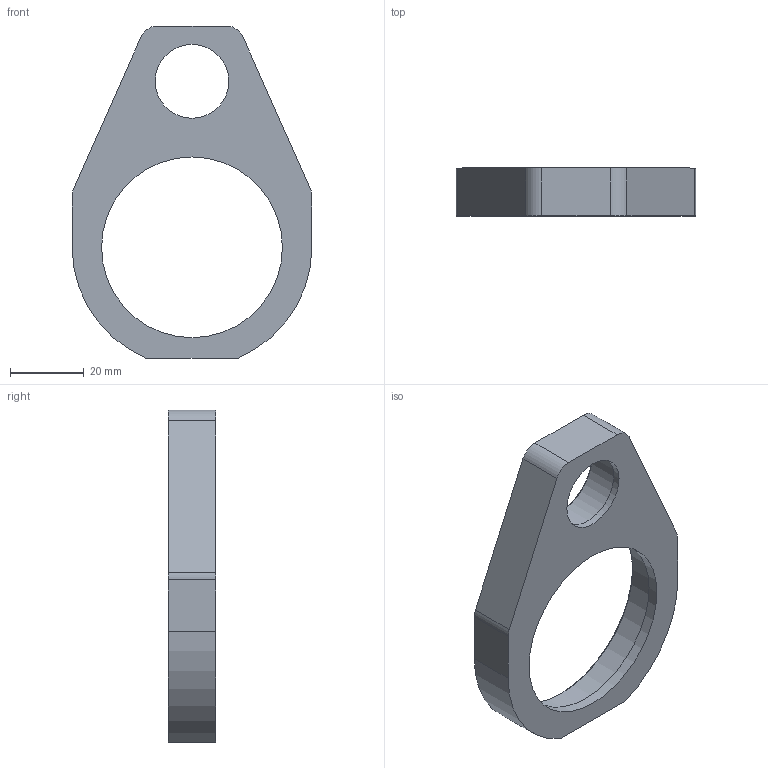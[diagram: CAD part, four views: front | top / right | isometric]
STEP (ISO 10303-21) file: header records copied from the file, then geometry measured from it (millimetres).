
FILE_DESCRIPTION(('STEP AP203'), '1');
FILE_NAME('ÒÏÏÔ1801.01.08.01.101 - Êîðïóñ òîëêàòåëÿ', '', ('UNSPECIFIED'), ('UNSPECIFIED'), 'C3D Converter', 'C3D Toolkit', '');
FILE_SCHEMA(('CONFIG_CONTROL_DESIGN'));
Length unit declared in the file: millimetre
Products named in the file (1): ТППФ1801.01.08.01.101
Bounding box: 65 x 13 x 90 mm (x, y, z)
Volume: 24621.5 mm3; surface area: 11575.5 mm2
Topology: 1 solids, 1 shells, 40 faces, 94 edges, 58 vertices
Faces by surface type: cylinder 16, cone 14, plane 10
Full cylindrical faces by diameter (mm): 2.459 x6, 20 x1, 24 x1, 49 x1, 55 x1
Entity records: 1340 total; most frequent: DIRECTION 186, CARTESIAN_POINT 157, ORIENTED_EDGE 128, AXIS2_PLACEMENT_3D 81, EDGE_LOOP 70, EDGE_CURVE 64, VERTEX_POINT 52, FACE_OUTER_BOUND 42
